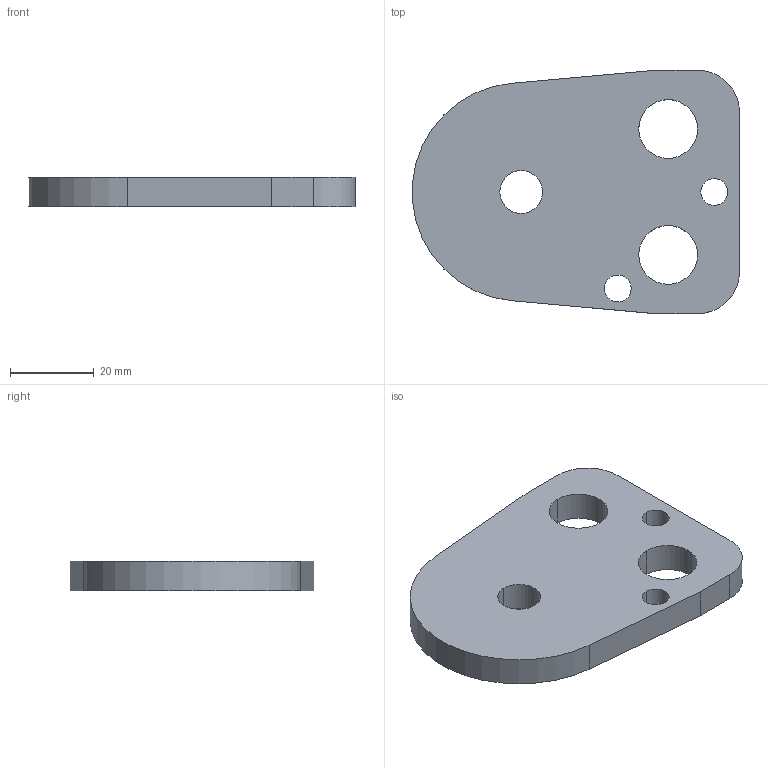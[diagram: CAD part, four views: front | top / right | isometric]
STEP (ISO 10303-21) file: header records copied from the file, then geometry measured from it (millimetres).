
FILE_DESCRIPTION(/* description */ (''),/* implementation_level */ '2;1');
FILE_NAME(/* name */ '3d_bpc38-7_03404_r00.stp',/* time_stamp */ '2011-01-10T14:17:09+09:00',/* author */ ('MISUMI'),/* organization */ (''),/* preprocessor_version */ 'ST-DEVELOPER v11',/* originating_system */ 'UGS - NX 5.0',/* authorisation */ '');
FILE_SCHEMA (('CONFIG_CONTROL_DESIGN'));
Length unit declared in the file: millimetre
Products named in the file (1): 3d_bpc38-7_03404_r00
Bounding box: 77.9 x 58 x 7 mm (x, y, z)
Volume: 24420 mm3; surface area: 9746.3 mm2
Topology: 1 solids, 1 shells, 20 faces, 54 edges, 36 vertices
Faces by surface type: cylinder 13, plane 7
Entity records: 750 total; most frequent: DIRECTION 122, CARTESIAN_POINT 111, ORIENTED_EDGE 108, EDGE_CURVE 54, AXIS2_PLACEMENT_3D 47, VERTEX_POINT 36, EDGE_LOOP 30, LINE 28
